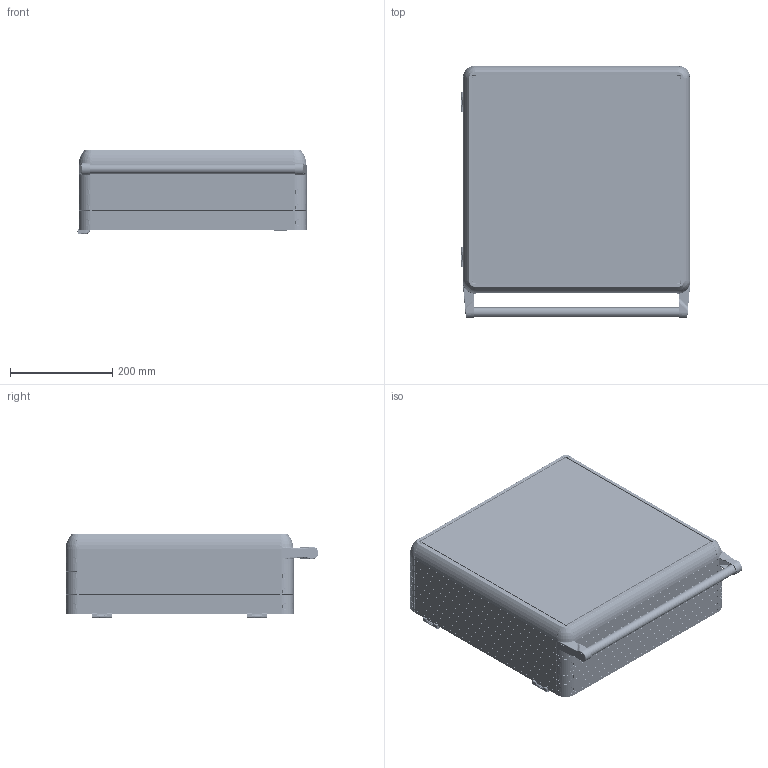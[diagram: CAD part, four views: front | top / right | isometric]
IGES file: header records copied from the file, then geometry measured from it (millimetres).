
Start section: SolidWorks IGES file using analytic representation for surfaces
Global section: file name: D:\PANO_STEP\150\150'lik data\1500-0108.IGS; native system: SolidWorks 2022; preprocessor: SolidWorks 2022; author: User; date: 220420.104129; units: millimetre
Bounding box: 449.03 x 495.81 x 166.15 mm (x, y, z)
Surface area: 2127457.1 mm2 (no closed solid volume)
Topology: 0 solids, 0 shells, 10897 faces, 87537 edges, 87321 vertices
Faces by surface type: bspline 6959, revolution 3938
